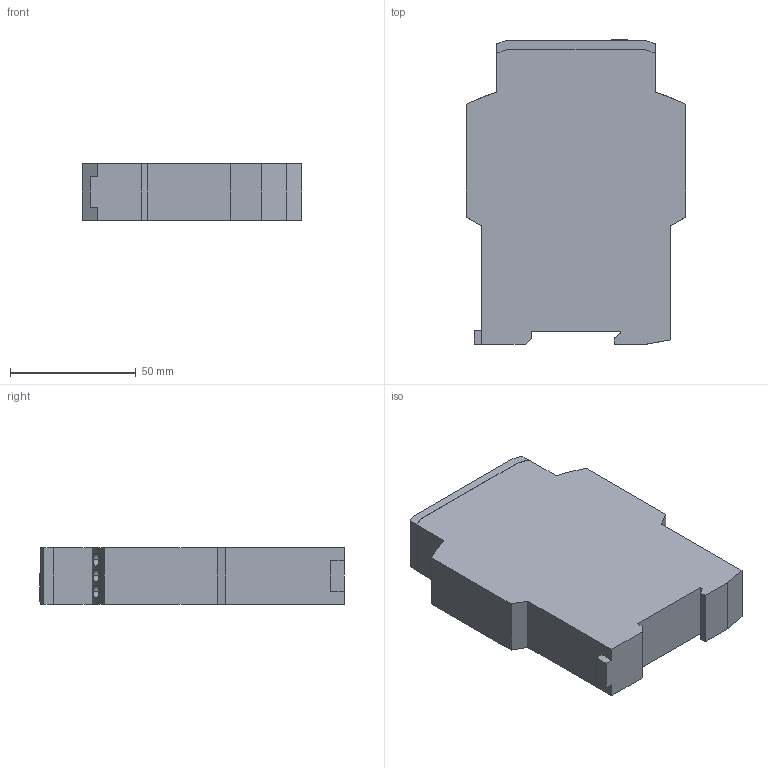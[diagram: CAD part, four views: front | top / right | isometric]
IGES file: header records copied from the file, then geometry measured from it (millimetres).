
Start section:  PTC IGES file: 2007889
Global section: file name: 2007889; native system: Pro/ENGINEER by Parametric Technology Corporation; preprocessor: 2009380; author: merz; organization: Unknown; date: 20100923.065916; units: millimetre
Bounding box: 87 x 121 x 22.5 mm (x, y, z)
Surface area: 28111.4 mm2 (no closed solid volume)
Topology: 0 solids, 0 shells, 107 faces, 528 edges, 528 vertices
Faces by surface type: bspline 77, revolution 30
